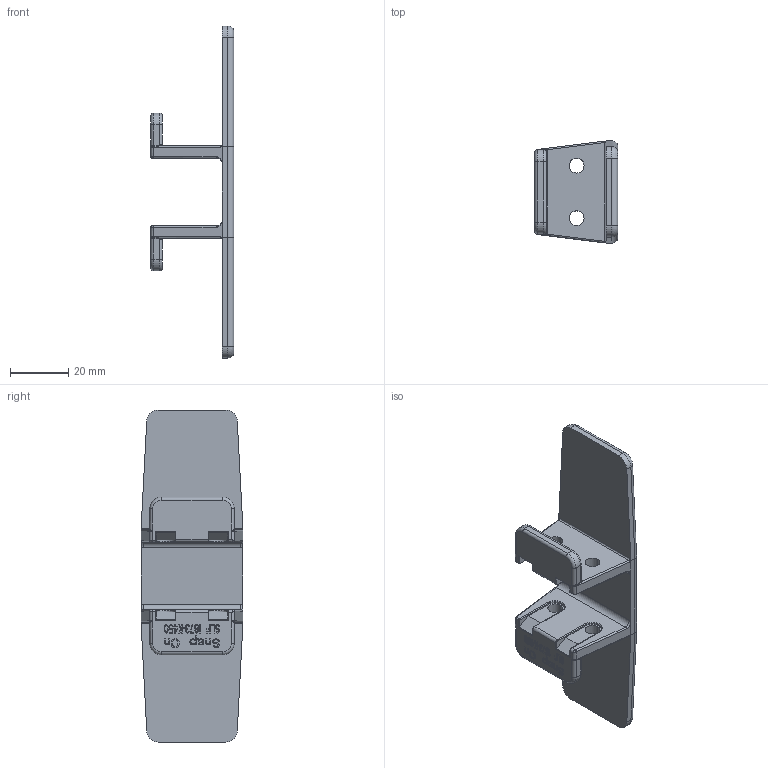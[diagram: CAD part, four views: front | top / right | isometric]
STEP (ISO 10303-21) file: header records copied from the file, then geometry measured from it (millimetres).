
FILE_DESCRIPTION((''),'2;1');
FILE_NAME('P115','2015-12-16T',('bhe'),(''),'CREO PARAMETRIC BY PTC INC, 2015290','CREO PARAMETRIC BY PTC INC, 2015290','');
FILE_SCHEMA(('CONFIG_CONTROL_DESIGN'));
Length unit declared in the file: millimetre
Products named in the file (1): P115
Bounding box: 28.78 x 35.1 x 114.3 mm (x, y, z)
Volume: 23525.4 mm3; surface area: 13433.6 mm2
Topology: 1 solids, 1 shells, 786 faces, 2167 edges, 1408 vertices
Faces by surface type: plane 632, cylinder 88, bspline 42, torus 24
Entity records: 26601 total; most frequent: CARTESIAN_POINT 6765, ORIENTED_EDGE 4334, DIRECTION 3735, EDGE_CURVE 2167, VECTOR 1887, LINE 1887, VERTEX_POINT 1408, AXIS2_PLACEMENT_3D 924
